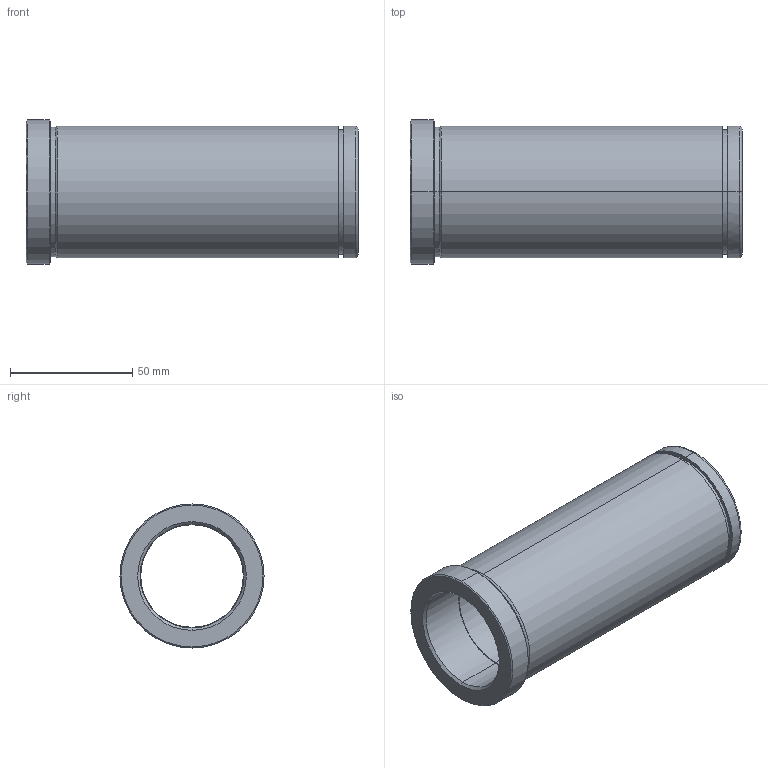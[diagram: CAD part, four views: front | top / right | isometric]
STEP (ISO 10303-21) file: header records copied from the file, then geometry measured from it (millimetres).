
FILE_DESCRIPTION(('CATIA V5 STEP Exchange'),'2;1');
FILE_NAME('C:\Users\Utente\Desktop\IO LAVORO\3D X SITO CF\X SITO\PLASTICA\553\553-42X136.stp','2021-06-08T17:46:08+00:00',('none'),('none'),'CATIA Version 5 Release 20 GA (IN-10)','CATIA V5 STEP AP203','none');
FILE_SCHEMA(('CONFIG_CONTROL_DESIGN'));
Length unit declared in the file: millimetre
Products named in the file (1): 553-42X136
Bounding box: 136 x 59 x 59 mm (x, y, z)
Volume: 125739.3 mm3; surface area: 44062.7 mm2
Topology: 1 solids, 1 shells, 32 faces, 102 edges, 76 vertices
Faces by surface type: cylinder 14, cone 8, plane 6, torus 4
Entity records: 1334 total; most frequent: CARTESIAN_POINT 389, ORIENTED_EDGE 204, DIRECTION 152, EDGE_CURVE 102, AXIS2_PLACEMENT_3D 99, VERTEX_POINT 76, CIRCLE 66, EDGE_LOOP 38
